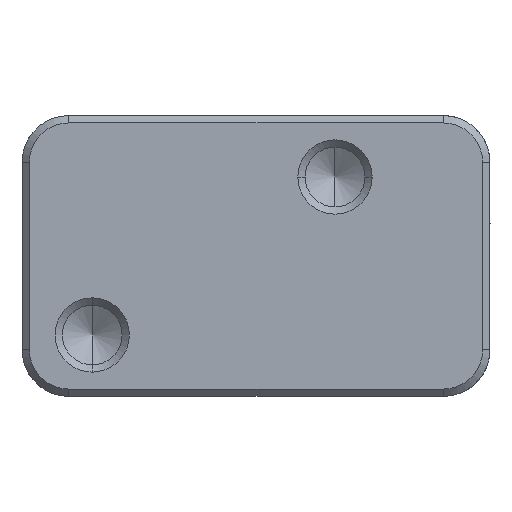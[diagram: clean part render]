
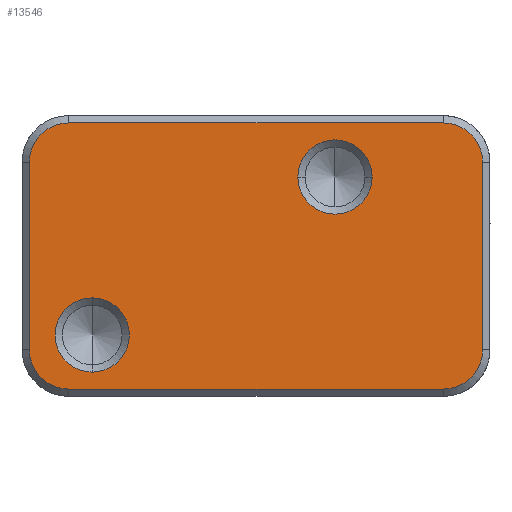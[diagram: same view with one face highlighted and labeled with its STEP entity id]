
A CAD part, front view. The second image highlights one B-rep face of the part: STEP entity #13546.
In plain terms, the highlighted planar face has unit normal (0, -1, 0).
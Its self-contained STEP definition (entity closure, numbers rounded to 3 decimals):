
#15 = FACE_BOUND ( 'NONE', #10132, .T. ) ;
#486 = LINE ( 'NONE', #3995, #7721 ) ;
#850 = VECTOR ( 'NONE', #3375, 1000. ) ;
#1021 = EDGE_CURVE ( 'NONE', #6011, #5515, #12552, .T. ) ;
#1042 = CARTESIAN_POINT ( 'NONE',  ( 32.001, 0.897, 22.74 ) ) ;
#1248 = ORIENTED_EDGE ( 'NONE', *, *, #14655, .T. ) ;
#1493 = DIRECTION ( 'NONE',  ( -1., 0., 0. ) ) ;
#1504 = EDGE_CURVE ( 'NONE', #3361, #5029, #12605, .T. ) ;
#1589 = DIRECTION ( 'NONE',  ( 0., 1., 0. ) ) ;
#1662 = VECTOR ( 'NONE', #1493, 1000. ) ;
#2001 = DIRECTION ( 'NONE',  ( 0., 1., 0. ) ) ;
#2033 = CARTESIAN_POINT ( 'NONE',  ( -32.001, 0.897, -22.762 ) ) ;
#2142 = DIRECTION ( 'NONE',  ( 0., 0., -1. ) ) ;
#2566 = ORIENTED_EDGE ( 'NONE', *, *, #13923, .F. ) ;
#2605 = VERTEX_POINT ( 'NONE', #6749 ) ;
#2726 = DIRECTION ( 'NONE',  ( 1., 0., 0. ) ) ;
#2768 = ORIENTED_EDGE ( 'NONE', *, *, #9984, .T. ) ;
#2845 = ORIENTED_EDGE ( 'NONE', *, *, #1504, .F. ) ;
#3088 = DIRECTION ( 'NONE',  ( 1., 0., 0. ) ) ;
#3193 = EDGE_LOOP ( 'NONE', ( #2566, #13492, #9686, #5469, #6920, #1248, #13965, #2845 ) ) ;
#3277 = VECTOR ( 'NONE', #8542, 1000. ) ;
#3361 = VERTEX_POINT ( 'NONE', #10030 ) ;
#3375 = DIRECTION ( 'NONE',  ( -1., 0., 0. ) ) ;
#3500 = CARTESIAN_POINT ( 'NONE',  ( 19.85, 0.897, 13.489 ) ) ;
#3535 = CIRCLE ( 'NONE', #10836, 6.35 ) ;
#3860 = DIRECTION ( 'NONE',  ( 0., 1., 0. ) ) ;
#3995 = CARTESIAN_POINT ( 'NONE',  ( 38.75, 0.897, -24.012 ) ) ;
#4485 = DIRECTION ( 'NONE',  ( 0., 0., 1. ) ) ;
#4505 = DIRECTION ( 'NONE',  ( 0., -1., 0. ) ) ;
#4659 = DIRECTION ( 'NONE',  ( 1., 0., 0. ) ) ;
#5029 = VERTEX_POINT ( 'NONE', #2033 ) ;
#5224 = LINE ( 'NONE', #6224, #1662 ) ;
#5424 = AXIS2_PLACEMENT_3D ( 'NONE', #15049, #11295, #2142 ) ;
#5469 = ORIENTED_EDGE ( 'NONE', *, *, #11388, .T. ) ;
#5479 = DIRECTION ( 'NONE',  ( 0., 1., 0. ) ) ;
#5481 = DIRECTION ( 'NONE',  ( 0., 0., 1. ) ) ;
#5515 = VERTEX_POINT ( 'NONE', #1042 ) ;
#5900 = AXIS2_PLACEMENT_3D ( 'NONE', #14460, #3860, #8661 ) ;
#5983 = AXIS2_PLACEMENT_3D ( 'NONE', #10883, #7442, #9804 ) ;
#6011 = VERTEX_POINT ( 'NONE', #10310 ) ;
#6224 = CARTESIAN_POINT ( 'NONE',  ( -40., 0.897, 22.74 ) ) ;
#6333 = CARTESIAN_POINT ( 'NONE',  ( 7.151, 0.897, 13.489 ) ) ;
#6732 = DIRECTION ( 'NONE',  ( 0., 0., 1. ) ) ;
#6749 = CARTESIAN_POINT ( 'NONE',  ( -28.001, 0.897, -7.161 ) ) ;
#6920 = ORIENTED_EDGE ( 'NONE', *, *, #14725, .T. ) ;
#7016 = AXIS2_PLACEMENT_3D ( 'NONE', #15043, #4505, #4659 ) ;
#7442 = DIRECTION ( 'NONE',  ( 0., -1., 0. ) ) ;
#7544 = DIRECTION ( 'NONE',  ( 0., -1., 0. ) ) ;
#7618 = CARTESIAN_POINT ( 'NONE',  ( -32.001, 0.897, 15.99 ) ) ;
#7721 = VECTOR ( 'NONE', #6732, 1000. ) ;
#7939 = EDGE_CURVE ( 'NONE', #12603, #2605, #13955, .T. ) ;
#8253 = CARTESIAN_POINT ( 'NONE',  ( -28.001, 0.897, -19.861 ) ) ;
#8470 = CIRCLE ( 'NONE', #12604, 6.75 ) ;
#8530 = CARTESIAN_POINT ( 'NONE',  ( 13.501, 0.897, 13.489 ) ) ;
#8542 = DIRECTION ( 'NONE',  ( 0., 0., -1. ) ) ;
#8661 = DIRECTION ( 'NONE',  ( 0., 0., -1. ) ) ;
#8690 = ORIENTED_EDGE ( 'NONE', *, *, #14165, .T. ) ;
#8692 = ORIENTED_EDGE ( 'NONE', *, *, #7939, .T. ) ;
#8753 = VERTEX_POINT ( 'NONE', #6333 ) ;
#8762 = CARTESIAN_POINT ( 'NONE',  ( -32.001, 0.897, 22.74 ) ) ;
#9317 = PLANE ( 'NONE',  #7016 ) ;
#9391 = CARTESIAN_POINT ( 'NONE',  ( 38.75, 0.897, -16.012 ) ) ;
#9454 = AXIS2_PLACEMENT_3D ( 'NONE', #14863, #5479, #4485 ) ;
#9686 = ORIENTED_EDGE ( 'NONE', *, *, #1021, .T. ) ;
#9689 = EDGE_CURVE ( 'NONE', #8753, #14884, #13201, .T. ) ;
#9804 = DIRECTION ( 'NONE',  ( 0., 0., 1. ) ) ;
#9984 = EDGE_CURVE ( 'NONE', #2605, #12603, #12461, .T. ) ;
#10030 = CARTESIAN_POINT ( 'NONE',  ( 32.001, 0.897, -22.762 ) ) ;
#10132 = EDGE_LOOP ( 'NONE', ( #8692, #2768 ) ) ;
#10174 = CIRCLE ( 'NONE', #9454, 6.75 ) ;
#10310 = CARTESIAN_POINT ( 'NONE',  ( 38.75, 0.897, 15.99 ) ) ;
#10314 = CARTESIAN_POINT ( 'NONE',  ( -40., 0.897, -22.762 ) ) ;
#10809 = DIRECTION ( 'NONE',  ( 0., 0., 1. ) ) ;
#10836 = AXIS2_PLACEMENT_3D ( 'NONE', #13857, #13704, #3088 ) ;
#10883 = CARTESIAN_POINT ( 'NONE',  ( 32.001, 0.897, 15.99 ) ) ;
#10946 = CARTESIAN_POINT ( 'NONE',  ( -38.75, 0.897, -16.012 ) ) ;
#11295 = DIRECTION ( 'NONE',  ( 0., 1., 0. ) ) ;
#11366 = CARTESIAN_POINT ( 'NONE',  ( -38.75, 0.897, 15.99 ) ) ;
#11388 = EDGE_CURVE ( 'NONE', #5515, #13753, #5224, .T. ) ;
#11392 = EDGE_LOOP ( 'NONE', ( #8690, #13195 ) ) ;
#12098 = CARTESIAN_POINT ( 'NONE',  ( -32.001, 0.897, -16.012 ) ) ;
#12290 = CIRCLE ( 'NONE', #13274, 6.75 ) ;
#12461 = CIRCLE ( 'NONE', #5900, 6.35 ) ;
#12504 = EDGE_CURVE ( 'NONE', #12767, #6011, #486, .T. ) ;
#12552 = CIRCLE ( 'NONE', #5983, 6.75 ) ;
#12603 = VERTEX_POINT ( 'NONE', #8253 ) ;
#12604 = AXIS2_PLACEMENT_3D ( 'NONE', #12098, #2001, #10809 ) ;
#12605 = LINE ( 'NONE', #10314, #850 ) ;
#12767 = VERTEX_POINT ( 'NONE', #9391 ) ;
#13051 = CARTESIAN_POINT ( 'NONE',  ( -38.75, 0.897, -24.012 ) ) ;
#13138 = EDGE_CURVE ( 'NONE', #5029, #14418, #8470, .T. ) ;
#13195 = ORIENTED_EDGE ( 'NONE', *, *, #9689, .T. ) ;
#13201 = CIRCLE ( 'NONE', #13444, 6.35 ) ;
#13274 = AXIS2_PLACEMENT_3D ( 'NONE', #7618, #7544, #5481 ) ;
#13444 = AXIS2_PLACEMENT_3D ( 'NONE', #8530, #1589, #2726 ) ;
#13492 = ORIENTED_EDGE ( 'NONE', *, *, #12504, .T. ) ;
#13546 = ADVANCED_FACE ( 'NONE', ( #14960, #14808, #15 ), #9317, .T. ) ;
#13592 = VERTEX_POINT ( 'NONE', #11366 ) ;
#13704 = DIRECTION ( 'NONE',  ( 0., 1., 0. ) ) ;
#13753 = VERTEX_POINT ( 'NONE', #8762 ) ;
#13857 = CARTESIAN_POINT ( 'NONE',  ( 13.501, 0.897, 13.489 ) ) ;
#13923 = EDGE_CURVE ( 'NONE', #12767, #3361, #10174, .T. ) ;
#13955 = CIRCLE ( 'NONE', #5424, 6.35 ) ;
#13965 = ORIENTED_EDGE ( 'NONE', *, *, #13138, .F. ) ;
#14165 = EDGE_CURVE ( 'NONE', #14884, #8753, #3535, .T. ) ;
#14195 = LINE ( 'NONE', #13051, #3277 ) ;
#14418 = VERTEX_POINT ( 'NONE', #10946 ) ;
#14460 = CARTESIAN_POINT ( 'NONE',  ( -28.001, 0.897, -13.511 ) ) ;
#14655 = EDGE_CURVE ( 'NONE', #13592, #14418, #14195, .T. ) ;
#14725 = EDGE_CURVE ( 'NONE', #13753, #13592, #12290, .T. ) ;
#14808 = FACE_OUTER_BOUND ( 'NONE', #3193, .T. ) ;
#14863 = CARTESIAN_POINT ( 'NONE',  ( 32.001, 0.897, -16.012 ) ) ;
#14884 = VERTEX_POINT ( 'NONE', #3500 ) ;
#14960 = FACE_BOUND ( 'NONE', #11392, .T. ) ;
#15043 = CARTESIAN_POINT ( 'NONE',  ( -40., 0.897, -24.012 ) ) ;
#15049 = CARTESIAN_POINT ( 'NONE',  ( -28.001, 0.897, -13.511 ) ) ;
